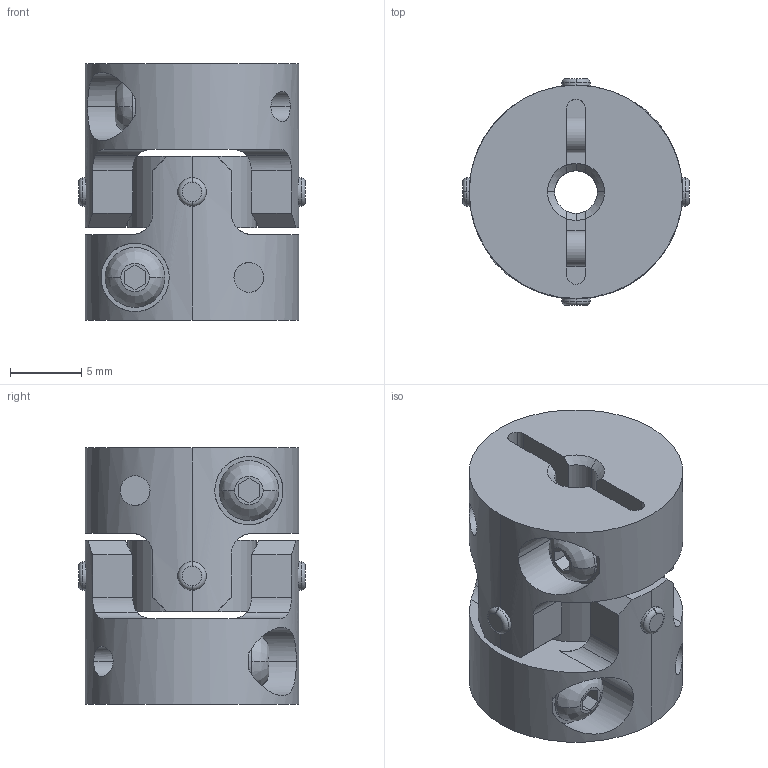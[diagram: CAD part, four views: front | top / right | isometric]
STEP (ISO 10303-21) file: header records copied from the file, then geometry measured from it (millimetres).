
FILE_DESCRIPTION((''),'2;1');
FILE_NAME('UA-15C-3×3.stp','2013-05-16T08:24:47',(''),(''),'AutoCAD STEP 2000i','AutoCAD 2000i',', , ');
FILE_SCHEMA(('CONFIG_CONTROL_DESIGN'));
Length unit declared in the file: millimetre
Products named in the file (6): UA-15C-3×3; 忣兜1; UA-1502-D03-1; BTN-M2.5; UA-1502-D03; UA15-SEN
Assembly tree (6 placements, depth 3):
  UA-15C-3×3
    忣兜1
    UA-1502-D03-1
      BTN-M2.5
    UA-1502-D03
      BTN-M2.5
    UA15-SEN
Bounding box: 15.94 x 15.94 x 18 mm (x, y, z)
Volume: 2361.8 mm3; surface area: 2377.9 mm2
Topology: 1 solids, 1 shells, 206 faces, 550 edges, 360 vertices
Faces by surface type: cylinder 96, plane 78, cone 16, bspline 8, torus 8
Entity records: 7955 total; most frequent: CARTESIAN_POINT 2659, ORIENTED_EDGE 1100, DIRECTION 1064, EDGE_CURVE 550, AXIS2_PLACEMENT_3D 409, VERTEX_POINT 360, VECTOR 246, LINE 246
